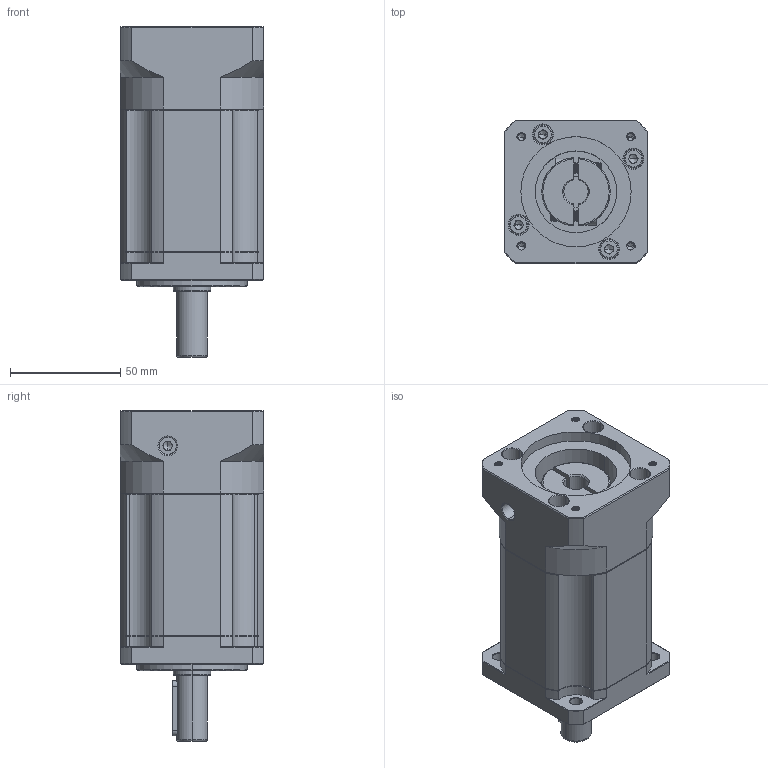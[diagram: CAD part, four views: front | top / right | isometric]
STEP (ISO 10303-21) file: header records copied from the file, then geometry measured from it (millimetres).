
FILE_DESCRIPTION (( 'STEP AP214' ), '1' );
FILE_NAME ('ZB60-D14-L3-11-50-70-M4.STEP', '2022-04-17T07:29:30', ( '' ), ( 'Microsoft' ), 'SwSTEP 2.0', 'SolidWorks 2016', '' );
FILE_SCHEMA (( 'AUTOMOTIVE_DESIGN' ));
Length unit declared in the file: millimetre
Products named in the file (1): ZB60-D14-L3-11-50-70-M4
Bounding box: 65 x 65 x 150 mm (x, y, z)
Volume: 390264.7 mm3; surface area: 62483.7 mm2
Topology: 6 solids, 6 shells, 1874 faces, 4977 edges, 3186 vertices
Faces by surface type: plane 879, cylinder 381, bspline 299, cone 279, torus 36
Entity records: 98781 total; most frequent: CARTESIAN_POINT 34016, ORIENTED_EDGE 9894, DIRECTION 8099, EDGE_CURVE 4947, VERTEX_POINT 3186, LINE 3009, VECTOR 3009, AXIS2_PLACEMENT_3D 2545
